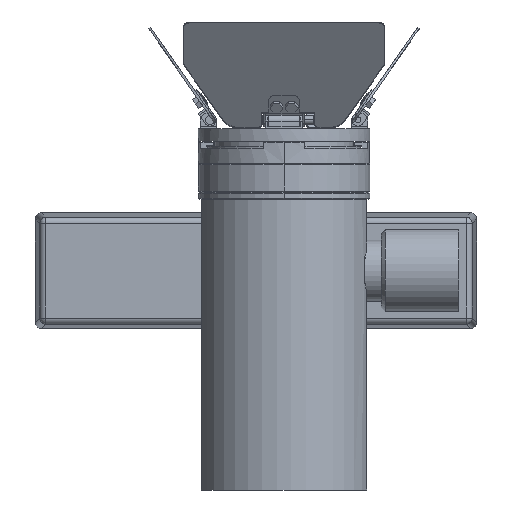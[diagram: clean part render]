
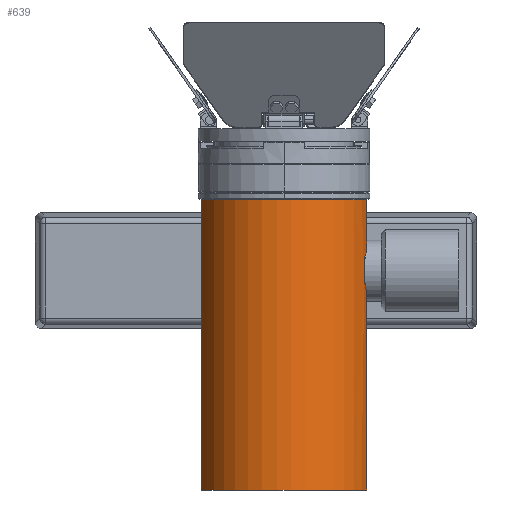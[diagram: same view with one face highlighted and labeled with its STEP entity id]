
A CAD part, front view. The second image highlights one B-rep face of the part: STEP entity #639.
In plain terms, the highlighted cylindrical face has radius 42 mm (diameter 84 mm), a partial arc.
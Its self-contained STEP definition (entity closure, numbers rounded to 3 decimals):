
#315 = CARTESIAN_POINT ( 'NONE',  ( 39.3, 109.843, 14.816 ) ) ;
#639 = ADVANCED_FACE ( 'NONE', ( #881 ), #8107, .T. ) ;
#733 = EDGE_CURVE ( 'NONE', #1132, #2780, #10776, .T. ) ;
#881 = FACE_OUTER_BOUND ( 'NONE', #7091, .T. ) ;
#1076 = CARTESIAN_POINT ( 'NONE',  ( 40.5, 142.5, 11.124 ) ) ;
#1132 = VERTEX_POINT ( 'NONE', #1076 ) ;
#1413 = CARTESIAN_POINT ( 'NONE',  ( 40.236, 116.458, 12.053 ) ) ;
#1454 = EDGE_CURVE ( 'NONE', #7888, #7005, #13920, .T. ) ;
#1511 = CARTESIAN_POINT ( 'NONE',  ( 39.549, 112.672, 14.154 ) ) ;
#1548 = ORIENTED_EDGE ( 'NONE', *, *, #14665, .F. ) ;
#1748 = DIRECTION ( 'NONE',  ( 0., -1., 0. ) ) ;
#1751 = ORIENTED_EDGE ( 'NONE', *, *, #7464, .T. ) ;
#2048 = CARTESIAN_POINT ( 'NONE',  ( 39.3, 105.157, 14.816 ) ) ;
#2054 = VERTEX_POINT ( 'NONE', #14555 ) ;
#2163 = ORIENTED_EDGE ( 'NONE', *, *, #8191, .T. ) ;
#2199 = VERTEX_POINT ( 'NONE', #8648 ) ;
#2253 = ORIENTED_EDGE ( 'NONE', *, *, #13179, .T. ) ;
#2416 = VECTOR ( 'NONE', #10972, 1000. ) ;
#2730 = CARTESIAN_POINT ( 'NONE',  ( 40.5, 117.562, 11.124 ) ) ;
#2780 = VERTEX_POINT ( 'NONE', #3006 ) ;
#2781 = CARTESIAN_POINT ( 'NONE',  ( 40.049, 115.561, 12.655 ) ) ;
#2900 = DIRECTION ( 'NONE',  ( 0., 0., -1. ) ) ;
#3006 = CARTESIAN_POINT ( 'NONE',  ( 40.5, 117.562, 11.124 ) ) ;
#3126 = DIRECTION ( 'NONE',  ( 0., 0., -1. ) ) ;
#3209 = DIRECTION ( 'NONE',  ( 0., 0., 1. ) ) ;
#3239 = VECTOR ( 'NONE', #7507, 1000. ) ;
#3473 = CARTESIAN_POINT ( 'NONE',  ( 40.5, 97.438, 11.124 ) ) ;
#3599 = CARTESIAN_POINT ( 'NONE',  ( 40.5, 142.5, 11.124 ) ) ;
#3604 = ORIENTED_EDGE ( 'NONE', *, *, #12697, .T. ) ;
#4376 = CARTESIAN_POINT ( 'NONE',  ( 39.406, 103.722, 14.535 ) ) ;
#4398 = DIRECTION ( 'NONE',  ( 0., -1., 0. ) ) ;
#4428 = CARTESIAN_POINT ( 'NONE',  ( 40.233, 98.511, 12.095 ) ) ;
#4927 = CIRCLE ( 'NONE', #15293, 42. ) ;
#4959 = VECTOR ( 'NONE', #15327, 1000. ) ;
#5153 = CARTESIAN_POINT ( 'NONE',  ( 39.871, 114.626, 13.204 ) ) ;
#5231 = AXIS2_PLACEMENT_3D ( 'NONE', #7690, #4398, #3126 ) ;
#5236 = ORIENTED_EDGE ( 'NONE', *, *, #733, .F. ) ;
#6336 = CIRCLE ( 'NONE', #14325, 42. ) ;
#6379 = CARTESIAN_POINT ( 'NONE',  ( 40.367, 117.026, 11.61 ) ) ;
#7005 = VERTEX_POINT ( 'NONE', #2048 ) ;
#7066 = EDGE_CURVE ( 'NONE', #13785, #7005, #10116, .T. ) ;
#7091 = EDGE_LOOP ( 'NONE', ( #1548, #15089, #12254, #2253, #5236, #3604, #1751, #2163 ) ) ;
#7255 = LINE ( 'NONE', #13617, #3239 ) ;
#7464 = EDGE_CURVE ( 'NONE', #14105, #2054, #7255, .T. ) ;
#7507 = DIRECTION ( 'NONE',  ( 0., -1., 0. ) ) ;
#7690 = CARTESIAN_POINT ( 'NONE',  ( 0., 142.5, 0. ) ) ;
#7763 = CARTESIAN_POINT ( 'NONE',  ( 0., 142.5, 0. ) ) ;
#7888 = VERTEX_POINT ( 'NONE', #3473 ) ;
#8070 = CARTESIAN_POINT ( 'NONE',  ( 0., 0., 0. ) ) ;
#8107 = CYLINDRICAL_SURFACE ( 'NONE', #5231, 42. ) ;
#8133 = CARTESIAN_POINT ( 'NONE',  ( 39.661, 101.663, 13.822 ) ) ;
#8191 = EDGE_CURVE ( 'NONE', #2054, #2199, #4927, .T. ) ;
#8238 = CARTESIAN_POINT ( 'NONE',  ( 40.5, 97.438, 11.124 ) ) ;
#8463 = DIRECTION ( 'NONE',  ( 0., -1., 0. ) ) ;
#8541 = CARTESIAN_POINT ( 'NONE',  ( -40.5, 142.5, 11.124 ) ) ;
#8648 = CARTESIAN_POINT ( 'NONE',  ( 40.5, 0., 11.124 ) ) ;
#8794 = CARTESIAN_POINT ( 'NONE',  ( 39.387, 111.296, 14.586 ) ) ;
#9297 = CARTESIAN_POINT ( 'NONE',  ( 39.3, 105.157, 14.816 ) ) ;
#9408 = CARTESIAN_POINT ( 'NONE',  ( 39.711, 101.328, 13.676 ) ) ;
#9459 = CARTESIAN_POINT ( 'NONE',  ( 39.523, 102.682, 14.21 ) ) ;
#9506 = CARTESIAN_POINT ( 'NONE',  ( 39.343, 104.431, 14.701 ) ) ;
#10010 = CARTESIAN_POINT ( 'NONE',  ( 39.814, 114.303, 13.373 ) ) ;
#10116 = LINE ( 'NONE', #14198, #4959 ) ;
#10388 = DIRECTION ( 'NONE',  ( 0., 1., 0. ) ) ;
#10776 = LINE ( 'NONE', #3599, #2416 ) ;
#10972 = DIRECTION ( 'NONE',  ( 0., -1., 0. ) ) ;
#11348 = CARTESIAN_POINT ( 'NONE',  ( 39.988, 115.255, 12.845 ) ) ;
#11569 = CARTESIAN_POINT ( 'NONE',  ( 39.3, 109.843, 14.816 ) ) ;
#11581 = B_SPLINE_CURVE_WITH_KNOTS ( 'NONE', 3,
 ( #315, #8794, #1511, #10010, #5153, #11348, #2781, #1413, #6379, #2730 ),
 .UNSPECIFIED., .F., .F.,
 ( 4, 2, 2, 2, 4 ),
 ( 0., 0.004, 0.005, 0.007, 0.009 ),
 .UNSPECIFIED. ) ;
#11839 = CARTESIAN_POINT ( 'NONE',  ( 39.978, 99.698, 12.893 ) ) ;
#12254 = ORIENTED_EDGE ( 'NONE', *, *, #7066, .F. ) ;
#12697 = EDGE_CURVE ( 'NONE', #1132, #14105, #6336, .T. ) ;
#12790 = LINE ( 'NONE', #15752, #15256 ) ;
#13019 = CARTESIAN_POINT ( 'NONE',  ( 39.567, 102.34, 14.089 ) ) ;
#13179 = EDGE_CURVE ( 'NONE', #13785, #2780, #11581, .T. ) ;
#13617 = CARTESIAN_POINT ( 'NONE',  ( -40.5, 142.5, 11.124 ) ) ;
#13785 = VERTEX_POINT ( 'NONE', #11569 ) ;
#13920 = B_SPLINE_CURVE_WITH_KNOTS ( 'NONE', 3,
 ( #8238, #4428, #11839, #9408, #8133, #13019, #9459, #4376, #9506, #9297 ),
 .UNSPECIFIED., .F., .F.,
 ( 4, 2, 2, 2, 4 ),
 ( 0., 0.004, 0.005, 0.007, 0.009 ),
 .UNSPECIFIED. ) ;
#14105 = VERTEX_POINT ( 'NONE', #8541 ) ;
#14198 = CARTESIAN_POINT ( 'NONE',  ( 39.3, 142.5, 14.816 ) ) ;
#14325 = AXIS2_PLACEMENT_3D ( 'NONE', #7763, #1748, #2900 ) ;
#14555 = CARTESIAN_POINT ( 'NONE',  ( -40.5, 0., 11.124 ) ) ;
#14665 = EDGE_CURVE ( 'NONE', #7888, #2199, #12790, .T. ) ;
#15089 = ORIENTED_EDGE ( 'NONE', *, *, #1454, .T. ) ;
#15256 = VECTOR ( 'NONE', #8463, 1000. ) ;
#15293 = AXIS2_PLACEMENT_3D ( 'NONE', #8070, #10388, #3209 ) ;
#15327 = DIRECTION ( 'NONE',  ( 0., -1., 0. ) ) ;
#15752 = CARTESIAN_POINT ( 'NONE',  ( 40.5, 142.5, 11.124 ) ) ;
